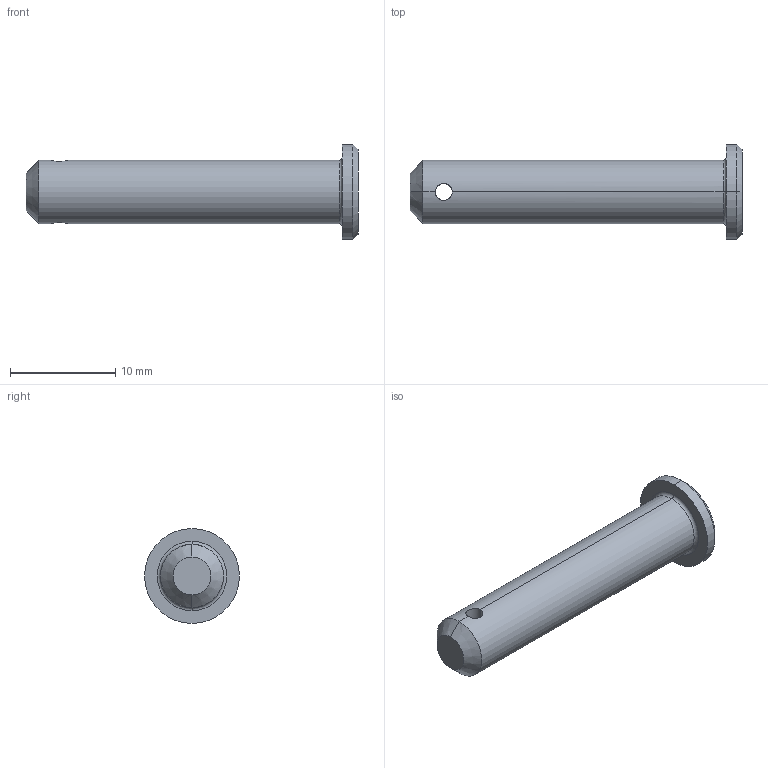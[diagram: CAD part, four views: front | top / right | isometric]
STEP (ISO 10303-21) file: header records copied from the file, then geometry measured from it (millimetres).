
FILE_DESCRIPTION (( 'STEP AP203' ), '1' );
FILE_NAME ('Wiberger-sms2360_6x30.step', '2012-10-09T08:58:23', ( 'Magnus' ), ( 'Wiberger' ), 'SwSTEP 2.0', 'SolidWorks 2011', '' );
FILE_SCHEMA (( 'CONFIG_CONTROL_DESIGN' ));
Length unit declared in the file: millimetre
Products named in the file (1): Wiberger-sms2360_6x30
Bounding box: 31.5 x 9 x 9 mm (x, y, z)
Volume: 916.9 mm3; surface area: 734.6 mm2
Topology: 1 solids, 1 shells, 15 faces, 32 edges, 18 vertices
Faces by surface type: cylinder 6, cone 4, plane 3, torus 2
Entity records: 539 total; most frequent: CARTESIAN_POINT 130, DIRECTION 76, ORIENTED_EDGE 64, EDGE_CURVE 32, AXIS2_PLACEMENT_3D 32, VERTEX_POINT 18, EDGE_LOOP 16, CIRCLE 16
